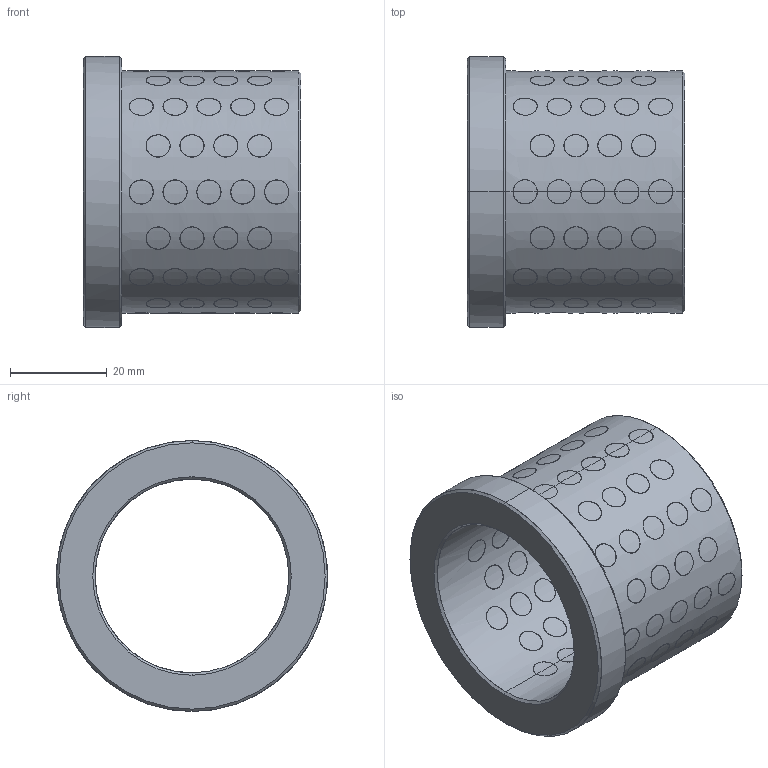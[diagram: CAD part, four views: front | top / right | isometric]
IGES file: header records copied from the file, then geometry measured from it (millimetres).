
Start section: START RECORD GO HERE.
Global section: file name: G4014045.igs; native system: DASSAULT SYSTEMES CATIA V5 R20 - www.3ds.com; preprocessor: CATIA Version 5 Release 20 ; author: r.borello; organization: CFTORINO; date: 20190624.143048; units: millimetre
Bounding box: 45 x 56 x 56 mm (x, y, z)
Surface area: 26295.7 mm2 (no closed solid volume)
Topology: 0 solids, 0 shells, 471 faces, 2044 edges, 2044 vertices
Faces by surface type: revolution 468, plane 3
